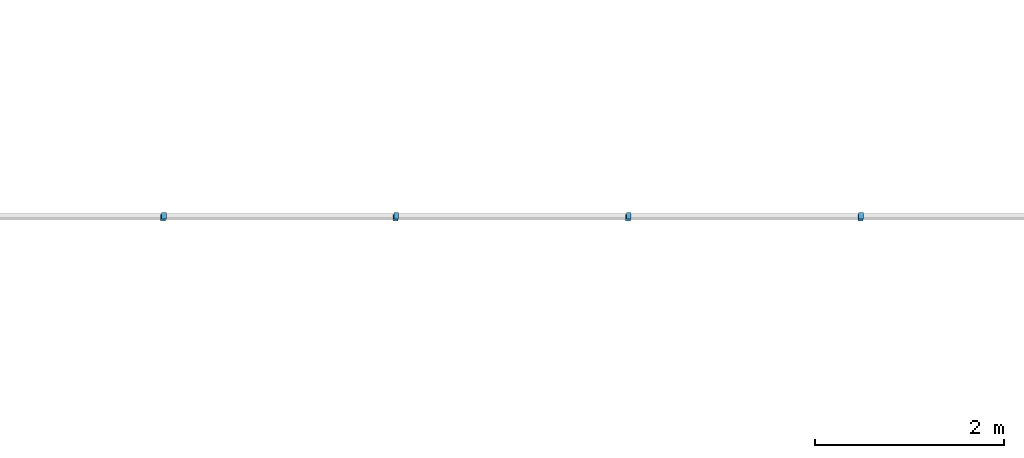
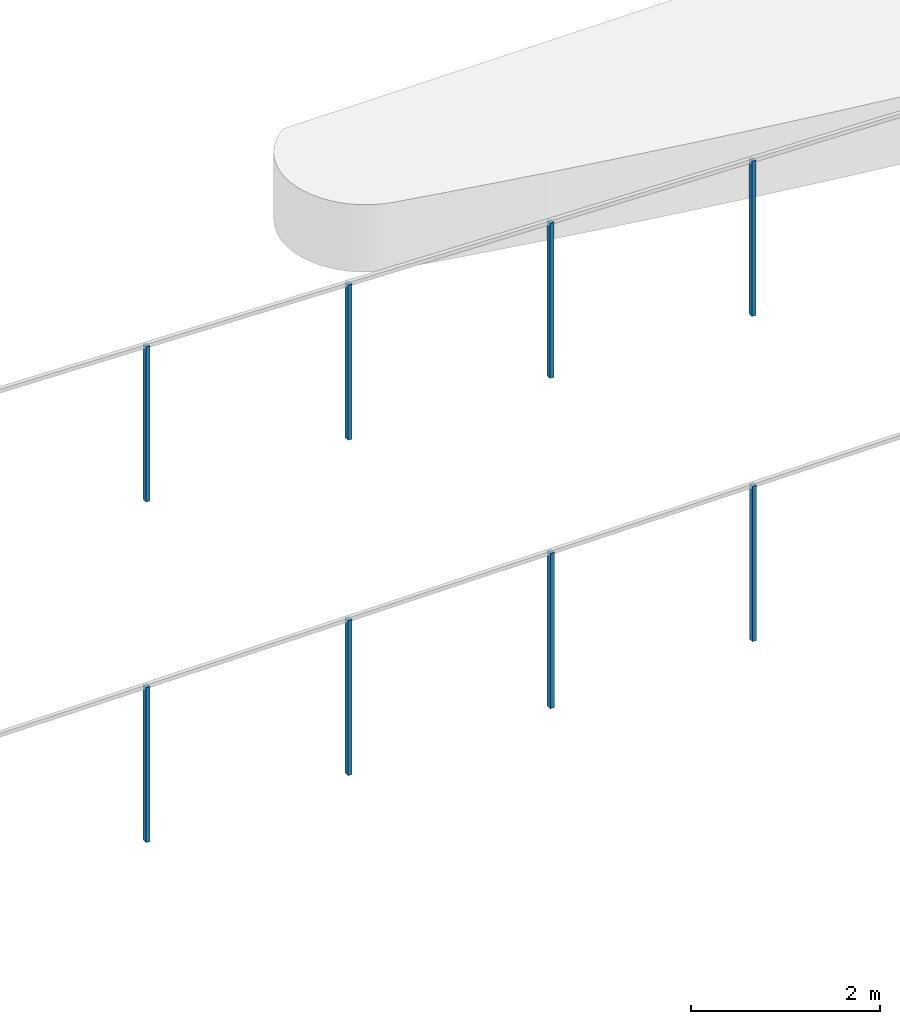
# One storey, part 47 of 91: 8 building element parts, 2 elements without a shape of their own.
"""IFC2X3 building model written with IfcOpenShell, lengths in metres."""

import ifcopenshell
import ifcopenshell.guid

model = None  # the IFC model being written
_history = None  # IfcOwnerHistory: only IFC2X3 demands one
_inside = {}  # id of a spatial element -> (the spatial element, [elements in it])
_under = {}  # id of a project, library or spatial element -> (it, [spatial elements below it])
_declared = {}  # id of a project -> (the project, [libraries it declares])
_typed = {}  # id of a type object -> (the type object, [elements of that type])
_made_of = {}  # id of a material, layer set ... -> (it, [elements and type objects made of it])


def new_model(schema):
    """Start an empty IFC model of exactly this schema.

    Asked for "IFC4X3", IfcOpenShell would pick the latest addendum, in which some entities
    have other attributes; the version numbers below select the first issue.
    IFC2X3 requires an IfcOwnerHistory on every rooted entity: one is made here for all.
    """
    global model, _history
    if schema == "IFC4X3":
        model = ifcopenshell.file(schema_version=(4, 3, 0, 0))
    else:
        model = ifcopenshell.file(schema=schema)
    _inside.clear()
    _under.clear()
    _declared.clear()
    _typed.clear()
    _made_of.clear()
    _history = None
    if model.schema == "IFC2X3":
        org = make("IfcOrganization", Name="unknown")
        user = make(
            "IfcPersonAndOrganization",
            ThePerson=make("IfcPerson", FamilyName="unknown"),
            TheOrganization=org,
        )
        app = make(
            "IfcApplication",
            ApplicationDeveloper=org,
            Version="unknown",
            ApplicationFullName="unknown",
            ApplicationIdentifier="unknown",
        )
        _history = make(
            "IfcOwnerHistory",
            OwningUser=user,
            OwningApplication=app,
            ChangeAction="ADDED",
            CreationDate=0,
        )
    return model


def make(cls, **values):
    """One entity of the class cls with the attributes given. An attribute that is None is left unset."""
    return model.create_entity(
        cls, **{name: value for name, value in values.items() if value is not None}
    )


def entity(cls, *values):
    """Any entity or typed value of the class cls, its attributes in the order of the schema. None: left unset."""
    e = model.create_entity(cls)
    for i, value in enumerate(values):
        if value is not None:
            e[i] = value
    return e


def rooted(cls, **values):
    """An entity with a GlobalId (a new one), such as an element, a storey or a relation."""
    return make(cls, GlobalId=ifcopenshell.guid.new(), OwnerHistory=_history, **values)


def si_unit(unit_type, name, prefix=None):
    """IfcSIUnit, for example si_unit("LENGTHUNIT", "METRE", prefix="MILLI")."""
    return make("IfcSIUnit", UnitType=unit_type, Prefix=prefix, Name=name)


def converted_unit(unit_type, name, factor, base, dimensions=None, offset=None):
    """IfcConversionBasedUnit, such as the inch: factor (a typed value) times the base unit."""
    return make(
        "IfcConversionBasedUnit"
        if offset is None
        else "IfcConversionBasedUnitWithOffset",
        ConversionOffset=offset,
        Dimensions=None
        if dimensions is None
        else entity("IfcDimensionalExponents", *dimensions),
        UnitType=unit_type,
        Name=name,
        ConversionFactor=make(
            "IfcMeasureWithUnit", ValueComponent=factor, UnitComponent=base
        ),
    )


def derived_unit(unit_type, elements):
    """IfcDerivedUnit: a product of units, each with its exponent."""
    return make(
        "IfcDerivedUnit",
        Elements=[
            make("IfcDerivedUnitElement", Unit=unit, Exponent=power)
            for unit, power in elements
        ],
        UnitType=unit_type,
    )


def money_unit(currency):
    """IfcMonetaryUnit."""
    return make("IfcMonetaryUnit", Currency=currency)


def assignment(units):
    """IfcUnitAssignment: the units of a project."""
    return None if units is None else make("IfcUnitAssignment", Units=units)


def point(xyz):
    """IfcCartesianPoint."""
    return None if xyz is None else make("IfcCartesianPoint", Coordinates=xyz)


def direction(xyz):
    """IfcDirection."""
    return None if xyz is None else make("IfcDirection", DirectionRatios=xyz)


def frame(location, z_axis=None, x_axis=None):
    """IfcAxis2Placement3D, a coordinate frame: its origin and axes. An axis left out is left unset."""
    return make(
        "IfcAxis2Placement3D",
        Location=point(location),
        Axis=direction(z_axis),
        RefDirection=direction(x_axis),
    )


def origin_with_axes():
    """The frame at (0, 0, 0) with the z axis (0, 0, 1) and the x axis (1, 0, 0) written out."""
    return frame((0.0, 0.0, 0.0), z_axis=(0.0, 0.0, 1.0), x_axis=(1.0, 0.0, 0.0))


def place(relative_to, where):
    """IfcLocalPlacement: puts the frame where relative to a parent placement (None: the world)."""
    return make(
        "IfcLocalPlacement", PlacementRelTo=relative_to, RelativePlacement=where
    )


def context(
    kind, dimensions, precision=None, world=None, true_north=None, identifier=None
):
    """IfcGeometricRepresentationContext, for example the 3D "Model" context."""
    return make(
        "IfcGeometricRepresentationContext",
        ContextIdentifier=identifier,
        ContextType=kind,
        CoordinateSpaceDimension=dimensions,
        Precision=precision,
        WorldCoordinateSystem=world,
        TrueNorth=true_north,
    )


def subcontext(parent, identifier, kind, view, scale=None):
    """IfcGeometricRepresentationSubContext, for example "Body" below "Model"."""
    return make(
        "IfcGeometricRepresentationSubContext",
        ContextIdentifier=identifier,
        ContextType=kind,
        ParentContext=parent,
        TargetScale=scale,
        TargetView=view,
    )


def project(units=None, contexts=None):
    """IfcProject with its units and contexts."""
    return rooted(
        "IfcProject",
        Name="project",
        RepresentationContexts=contexts,
        UnitsInContext=assignment(units),
    )


def spatial(cls, under=None, at=None, **own):
    """A site, building, storey or space (cls), placed at a placement, below another one or the project."""
    s = rooted(cls, ObjectPlacement=at, **own)
    if under is not None:
        _under.setdefault(under.id(), (under, []))[1].append(s)
    return s


def faces_of(points, faces, orient=None, outer=None):
    """IfcFace entities. A face is a list of loops; a loop is a list of indices into points, from 0.

    orient and outer hold one flag for each loop. By default every Orientation is true, the
    first loop of a face is its IfcFaceOuterBound and the others are IfcFaceBound.
    """
    made = []
    for i, loops in enumerate(faces):
        bounds = []
        for j, loop in enumerate(loops):
            is_outer = j == 0 if outer is None else outer[i][j]
            bounds.append(
                make(
                    "IfcFaceOuterBound" if is_outer else "IfcFaceBound",
                    Bound=make("IfcPolyLoop", Polygon=[points[k] for k in loop]),
                    Orientation=True if orient is None else orient[i][j],
                )
            )
        made.append(make("IfcFace", Bounds=bounds))
    return made


def faceted_brep(points, faces, orient=None, outer=None, voids=None):
    """IfcFacetedBrep: a solid bounded by flat faces; with voids (closed shells), ...WithVoids."""
    shared = [point(p) for p in points]
    hull = make("IfcClosedShell", CfsFaces=faces_of(shared, faces, orient, outer))
    if voids is None:
        return make("IfcFacetedBrep", Outer=hull)
    return make(
        "IfcFacetedBrepWithVoids",
        Outer=hull,
        Voids=[
            make(cls, CfsFaces=faces_of(shared, fs, o, b)) for cls, fs, o, b in voids
        ],
    )


def shape(context_of_items, identifier, shape_type, items):
    """IfcShapeRepresentation: the items that make up one representation, for example the "Body"."""
    return make(
        "IfcShapeRepresentation",
        ContextOfItems=context_of_items,
        RepresentationIdentifier=identifier,
        RepresentationType=shape_type,
        Items=items,
    )


def material(Name=None, Category=None):
    """IfcMaterial."""
    return make("IfcMaterial", Name=Name, Category=Category)


def made_of(thing, what):
    """Note that an element or type object is made of a material, layer set ...; save() writes the relation."""
    if what is not None:
        _made_of.setdefault(what.id(), (what, []))[1].append(thing)
    return thing


def type_object(cls, material=None, **own):
    """A type object (cls), such as IfcWallType, which elements share."""
    return made_of(rooted(cls, **own), material)


def element(
    cls,
    number,
    at=None,
    inside=None,
    cuts=None,
    type_object=None,
    material=None,
    context=None,
    identifier="Body",
    shape_type=None,
    held_by="IfcProductDefinitionShape",
    body=None,
    shapes=None,
    **own,
):
    """One element of the class cls, such as IfcWall. Its Tag is "e" and its number.

    at: its placement. inside: the storey or other place that contains it. cuts: it is an
    opening in that element (IfcRelVoidsElement). A single representation is given by context,
    identifier, shape_type and body (its items); several are given by shapes. held_by: the class
    of the entity that holds the representations. save() writes the other relations.
    """
    e = rooted(cls, Tag="e%d" % number, ObjectPlacement=at, **own)
    if body is not None:
        shapes = [shape(context, identifier, shape_type, body)]
    if shapes is not None:
        e.Representation = make(held_by, Representations=shapes)
    if inside is not None:
        _inside.setdefault(inside.id(), (inside, []))[1].append(e)
    if cuts is not None:
        rooted(
            "IfcRelVoidsElement", RelatingBuildingElement=cuts, RelatedOpeningElement=e
        )
    if type_object is not None:
        _typed.setdefault(type_object.id(), (type_object, []))[1].append(e)
    return made_of(e, material)


def aggregate(whole, parts):
    """IfcRelAggregates: a whole, such as a stair, and the parts it consists of."""
    return rooted("IfcRelAggregates", RelatingObject=whole, RelatedObjects=parts)


def save(model, path):
    """Write the relations noted so far, then the file.

    IfcRelAggregates (storeys below a building ...), IfcRelContainedInSpatialStructure (elements
    in a storey), IfcRelDefinesByType, IfcRelAssociatesMaterial and IfcRelDeclares: one each for
    every whole, place, type object, material and project.
    """
    for whole, parts in _under.values():
        aggregate(whole, parts)
    for where, things in _inside.values():
        rooted(
            "IfcRelContainedInSpatialStructure",
            RelatedElements=things,
            RelatingStructure=where,
        )
    for kind, things in _typed.values():
        rooted("IfcRelDefinesByType", RelatedObjects=things, RelatingType=kind)
    for what, things in _made_of.values():
        rooted("IfcRelAssociatesMaterial", RelatedObjects=things, RelatingMaterial=what)
    for by, libraries in _declared.values():
        rooted("IfcRelDeclares", RelatingContext=by, RelatedDefinitions=libraries)
    model.write(path)


model = new_model("IFC2X3")

# Units and contexts
model_context = context("Model", 3, precision=1e-05, world=origin_with_axes(), true_north=direction((0.0, 1.0)))
body_context = subcontext(model_context, "Body", "Model", "MODEL_VIEW")
ifc_project = project(units=[si_unit("LENGTHUNIT", "METRE"), si_unit("AREAUNIT", "SQUARE_METRE"), si_unit("VOLUMEUNIT", "CUBIC_METRE"), converted_unit("PLANEANGLEUNIT", "DEGREE", entity("IfcPlaneAngleMeasure", 0.0174532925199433), si_unit("PLANEANGLEUNIT", "RADIAN"), dimensions=[0, 0, 0, 0, 0, 0, 0]), money_unit("EUR"), converted_unit("TIMEUNIT", "Year", entity("IfcTimeMeasure", 31557600.0), si_unit("TIMEUNIT", "SECOND"), dimensions=[0, 0, 1, 0, 0, 0, 0]), si_unit("MASSUNIT", "GRAM", prefix="KILO"), si_unit("THERMODYNAMICTEMPERATUREUNIT", "DEGREE_CELSIUS"), si_unit("LUMINOUSINTENSITYUNIT", "LUMEN"), si_unit("ENERGYUNIT", "JOULE", prefix="MEGA"), derived_unit("THERMALCONDUCTANCEUNIT", [(si_unit("POWERUNIT", "WATT"), 1), (si_unit("LENGTHUNIT", "METRE"), -1), (si_unit("THERMODYNAMICTEMPERATUREUNIT", "KELVIN"), -1)]), derived_unit("SPECIFICHEATCAPACITYUNIT", [(si_unit("ENERGYUNIT", "JOULE"), 1), (si_unit("MASSUNIT", "GRAM", prefix="KILO"), -1), (si_unit("THERMODYNAMICTEMPERATUREUNIT", "KELVIN"), -1)]), derived_unit("MASSDENSITYUNIT", [(si_unit("MASSUNIT", "GRAM", prefix="KILO"), 1), (si_unit("VOLUMEUNIT", "CUBIC_METRE"), -1)])], contexts=[model_context])

# Site, building, storey
site_placement = place(None, origin_with_axes())
site = spatial("IfcSite", under=ifc_project, at=site_placement, Name="Site", CompositionType="ELEMENT")
building_placement = place(site_placement, origin_with_axes())
building = spatial("IfcBuilding", under=site, at=building_placement, Name="Bâtiment", CompositionType="ELEMENT")
storey_placement = place(building_placement, origin_with_axes())
storey = spatial("IfcBuildingStorey", under=building, at=storey_placement, Name="RDC", CompositionType="ELEMENT", Elevation=0.0)

# Proxy, building element parts
building_element_proxy_type = type_object("IfcBuildingElementProxyType", Name="Type de garde-corps", PredefinedType="NOTDEFINED")
proxy_1_placement = place(storey_placement, frame((79.63337255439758, 3.614023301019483, -2.37161404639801), z_axis=(0.0, 0.0, 1.0), x_axis=(1.0, 0.0, 0.0)))
proxy_1 = element("IfcBuildingElementProxy", 1, at=proxy_1_placement, inside=storey, type_object=building_element_proxy_type, Name="RAMPE-004")
ifc_material = material(Name="Acier Galva")
building_element_part_1_placement = place(proxy_1_placement, origin_with_axes())
building_element_part_1 = element("IfcBuildingElementPart", 2, at=building_element_part_1_placement, material=ifc_material, Name="Acier Galva", context=body_context, shape_type="Brep", body=[
    faceted_brep([(-62.42813601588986, -41.495928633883, 4.370414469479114), (-62.42813601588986, -41.42992863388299, 4.370414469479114), (-62.42813601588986, -41.42992863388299, 6.370414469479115), (-62.42813601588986, -41.495928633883, 6.370414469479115), (-62.47813601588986, -41.495928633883, 4.371735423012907), (-62.47813601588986, -41.42992863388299, 4.371735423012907), (-62.47813601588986, -41.42992863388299, 6.371735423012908), (-62.47813601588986, -41.495928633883, 6.371735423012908)], [[[0, 1, 2, 3]], [[0, 4, 5, 1]], [[1, 5, 6, 2]], [[3, 2, 6, 7]], [[4, 0, 3, 7]], [[5, 4, 7, 6]]]),
])
building_element_part_2_placement = place(proxy_1_placement, origin_with_axes())
building_element_part_2 = element("IfcBuildingElementPart", 3, at=building_element_part_2_placement, material=ifc_material, Name="Acier Galva", context=body_context, shape_type="Brep", body=[
    faceted_brep([(-59.96517665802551, -41.495928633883, 4.305345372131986), (-59.96517665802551, -41.42992863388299, 4.305345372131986), (-59.96517665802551, -41.42992863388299, 6.305345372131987), (-59.96517665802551, -41.495928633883, 6.305345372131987), (-60.01517665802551, -41.495928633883, 4.306666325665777), (-60.01517665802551, -41.42992863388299, 4.306666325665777), (-60.01517665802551, -41.42992863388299, 6.306666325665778), (-60.01517665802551, -41.495928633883, 6.306666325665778)], [[[0, 1, 2, 3]], [[0, 4, 5, 1]], [[1, 5, 6, 2]], [[3, 2, 6, 7]], [[4, 0, 3, 7]], [[5, 4, 7, 6]]]),
])
building_element_part_3_placement = place(proxy_1_placement, origin_with_axes())
building_element_part_3 = element("IfcBuildingElementPart", 4, at=building_element_part_3_placement, material=ifc_material, Name="Acier Galva", context=body_context, shape_type="Brep", body=[
    faceted_brep([(-55.03925794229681, -41.495928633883, 4.175207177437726), (-55.03925794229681, -41.42992863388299, 4.175207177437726), (-55.03925794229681, -41.42992863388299, 6.175207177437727), (-55.03925794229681, -41.495928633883, 6.175207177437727), (-55.08925794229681, -41.495928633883, 4.176528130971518), (-55.08925794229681, -41.42992863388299, 4.176528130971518), (-55.08925794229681, -41.42992863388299, 6.176528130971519), (-55.08925794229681, -41.495928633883, 6.176528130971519)], [[[0, 1, 2, 3]], [[0, 4, 5, 1]], [[1, 5, 6, 2]], [[3, 2, 6, 7]], [[4, 0, 3, 7]], [[5, 4, 7, 6]]]),
])
building_element_part_4_placement = place(proxy_1_placement, origin_with_axes())
building_element_part_4 = element("IfcBuildingElementPart", 5, at=building_element_part_4_placement, material=ifc_material, Name="Acier Galva", context=body_context, shape_type="Brep", body=[
    faceted_brep([(-57.50221730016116, -41.495928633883, 4.240276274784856), (-57.50221730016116, -41.42992863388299, 4.240276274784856), (-57.50221730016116, -41.42992863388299, 6.240276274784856), (-57.50221730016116, -41.495928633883, 6.240276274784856), (-57.55221730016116, -41.495928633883, 4.241597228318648), (-57.55221730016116, -41.42992863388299, 4.241597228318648), (-57.55221730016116, -41.42992863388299, 6.241597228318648), (-57.55221730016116, -41.495928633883, 6.241597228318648)], [[[0, 1, 2, 3]], [[0, 4, 5, 1]], [[1, 5, 6, 2]], [[3, 2, 6, 7]], [[4, 0, 3, 7]], [[5, 4, 7, 6]]]),
])
aggregate(proxy_1, [building_element_part_1, building_element_part_2, building_element_part_3, building_element_part_4])

proxy_2_placement = place(storey_placement, frame((54.13280691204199, -37.84890533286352, -2.37161404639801), z_axis=(0.0, 0.0, 1.0), x_axis=(1.0, 0.0, 0.0)))
proxy_2 = element("IfcBuildingElementProxy", 6, at=proxy_2_placement, inside=storey, type_object=building_element_proxy_type, Name="RAMPE-004")
building_element_part_5_placement = place(proxy_2_placement, origin_with_axes())
building_element_part_5 = element("IfcBuildingElementPart", 7, at=building_element_part_5_placement, material=ifc_material, Name="Acier Galva", context=body_context, shape_type="Brep", body=[
    faceted_brep([(-29.59588303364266, 0.01299999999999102, 0.0), (-29.59588303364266, -0.05300000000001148, 0.0), (-29.59588303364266, -0.05300000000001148, 2.0), (-29.59588303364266, 0.01299999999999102, 2.0), (-29.54588303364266, 0.01299999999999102, 0.0), (-29.54588303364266, -0.05300000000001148, 0.0), (-29.54588303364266, -0.05300000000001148, 2.0), (-29.54588303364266, 0.01299999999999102, 2.0)], [[[0, 1, 2, 3]], [[0, 4, 5, 1]], [[1, 5, 6, 2]], [[3, 2, 6, 7]], [[4, 0, 3, 7]], [[5, 4, 7, 6]]]),
])
building_element_part_6_placement = place(proxy_2_placement, origin_with_axes())
building_element_part_6 = element("IfcBuildingElementPart", 8, at=building_element_part_6_placement, material=ifc_material, Name="Acier Galva", context=body_context, shape_type="Brep", body=[
    faceted_brep([(-32.06012328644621, 0.01299999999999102, 0.0), (-32.06012328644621, -0.05300000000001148, 0.0), (-32.06012328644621, -0.05300000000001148, 2.0), (-32.06012328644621, 0.01299999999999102, 2.0), (-32.01012328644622, 0.01299999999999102, 0.0), (-32.01012328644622, -0.05300000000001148, 0.0), (-32.01012328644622, -0.05300000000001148, 2.0), (-32.01012328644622, 0.01299999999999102, 2.0)], [[[0, 1, 2, 3]], [[0, 4, 5, 1]], [[1, 5, 6, 2]], [[3, 2, 6, 7]], [[4, 0, 3, 7]], [[5, 4, 7, 6]]]),
])
building_element_part_7_placement = place(proxy_2_placement, origin_with_axes())
building_element_part_7 = element("IfcBuildingElementPart", 9, at=building_element_part_7_placement, material=ifc_material, Name="Acier Galva", context=body_context, shape_type="Brep", body=[
    faceted_brep([(-34.52436353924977, 0.01299999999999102, 0.0), (-34.52436353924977, -0.05300000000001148, 0.0), (-34.52436353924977, -0.05300000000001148, 2.0), (-34.52436353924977, 0.01299999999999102, 2.0), (-34.47436353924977, 0.01299999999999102, 0.0), (-34.47436353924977, -0.05300000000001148, 0.0), (-34.47436353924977, -0.05300000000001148, 2.0), (-34.47436353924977, 0.01299999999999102, 2.0)], [[[0, 1, 2, 3]], [[0, 4, 5, 1]], [[1, 5, 6, 2]], [[3, 2, 6, 7]], [[4, 0, 3, 7]], [[5, 4, 7, 6]]]),
])
building_element_part_8_placement = place(proxy_2_placement, origin_with_axes())
building_element_part_8 = element("IfcBuildingElementPart", 10, at=building_element_part_8_placement, material=ifc_material, Name="Acier Galva", context=body_context, shape_type="Brep", body=[
    faceted_brep([(-36.98860379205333, 0.01299999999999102, 0.0), (-36.98860379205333, -0.05300000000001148, 0.0), (-36.98860379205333, -0.05300000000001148, 2.0), (-36.98860379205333, 0.01299999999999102, 2.0), (-36.93860379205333, 0.01299999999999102, 0.0), (-36.93860379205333, -0.05300000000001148, 0.0), (-36.93860379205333, -0.05300000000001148, 2.0), (-36.93860379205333, 0.01299999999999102, 2.0)], [[[0, 1, 2, 3]], [[0, 4, 5, 1]], [[1, 5, 6, 2]], [[3, 2, 6, 7]], [[4, 0, 3, 7]], [[5, 4, 7, 6]]]),
])
aggregate(proxy_2, [building_element_part_5, building_element_part_6, building_element_part_7, building_element_part_8])

save(model, "model.ifc")
